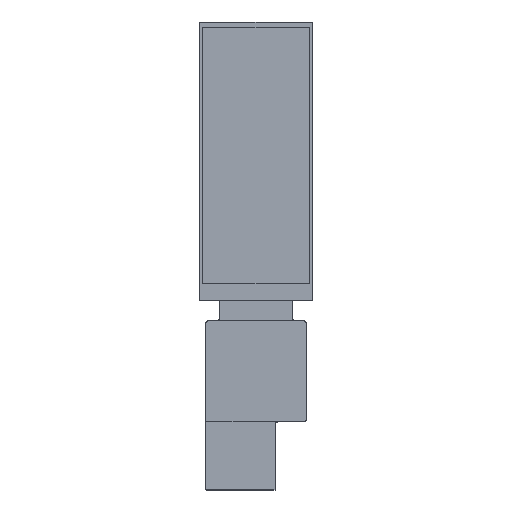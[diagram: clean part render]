
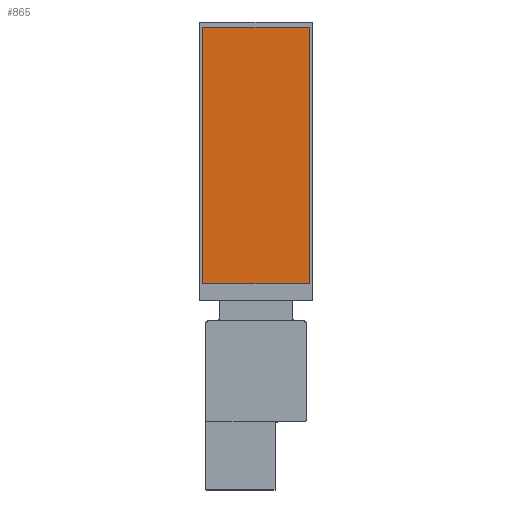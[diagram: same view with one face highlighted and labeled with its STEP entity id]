
A CAD part, top view. The second image highlights one B-rep face of the part: STEP entity #865.
In plain terms, the highlighted planar face has unit normal (0, 0, 1).
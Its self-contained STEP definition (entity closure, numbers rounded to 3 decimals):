
#311=DIRECTION('',(0.,1.,0.));
#312=VECTOR('',#311,94.032);
#313=CARTESIAN_POINT('',(-19.59,-47.016,-1.153));
#314=LINE('',#313,#312);
#315=DIRECTION('',(1.,0.,0.));
#316=VECTOR('',#315,39.18);
#317=CARTESIAN_POINT('',(-19.59,47.016,-1.153));
#318=LINE('',#317,#316);
#319=DIRECTION('',(0.,-1.,0.));
#320=VECTOR('',#319,94.032);
#321=CARTESIAN_POINT('',(19.59,47.016,-1.153));
#322=LINE('',#321,#320);
#323=DIRECTION('',(-1.,0.,0.));
#324=VECTOR('',#323,39.18);
#325=CARTESIAN_POINT('',(19.59,-47.016,-1.153));
#326=LINE('',#325,#324);
#343=CARTESIAN_POINT('',(-19.59,-47.016,-1.153));
#344=CARTESIAN_POINT('',(-19.59,47.016,-1.153));
#345=VERTEX_POINT('',#343);
#346=VERTEX_POINT('',#344);
#347=CARTESIAN_POINT('',(19.59,-47.016,-1.153));
#348=VERTEX_POINT('',#347);
#349=CARTESIAN_POINT('',(19.59,47.016,-1.153));
#350=VERTEX_POINT('',#349);
#854=CARTESIAN_POINT('',(0.,0.,-1.155));
#855=DIRECTION('',(0.,0.,1.));
#856=DIRECTION('',(1.,0.,0.));
#857=AXIS2_PLACEMENT_3D('',#854,#855,#856);
#858=PLANE('',#857);
#859=ORIENTED_EDGE('',*,*,#472,.T.);
#860=ORIENTED_EDGE('',*,*,#478,.T.);
#861=ORIENTED_EDGE('',*,*,#476,.T.);
#862=ORIENTED_EDGE('',*,*,#474,.T.);
#863=EDGE_LOOP('',(#859,#860,#861,#862));
#864=FACE_OUTER_BOUND('',#863,.F.);
#472=EDGE_CURVE('',#345,#346,#314,.T.);
#474=EDGE_CURVE('',#348,#345,#326,.T.);
#476=EDGE_CURVE('',#350,#348,#322,.T.);
#478=EDGE_CURVE('',#346,#350,#318,.T.);
#865=ADVANCED_FACE('',(#864),#858,.T.);
